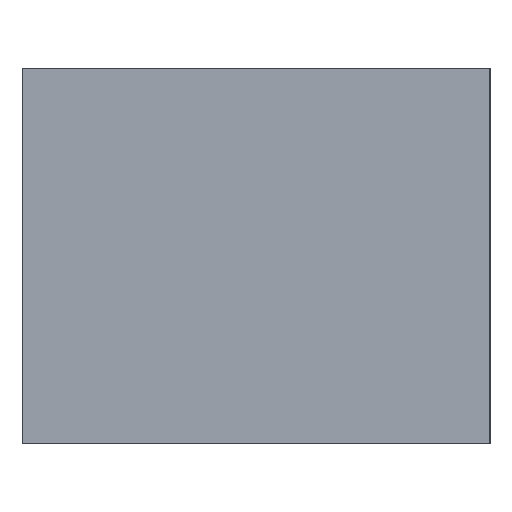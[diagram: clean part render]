
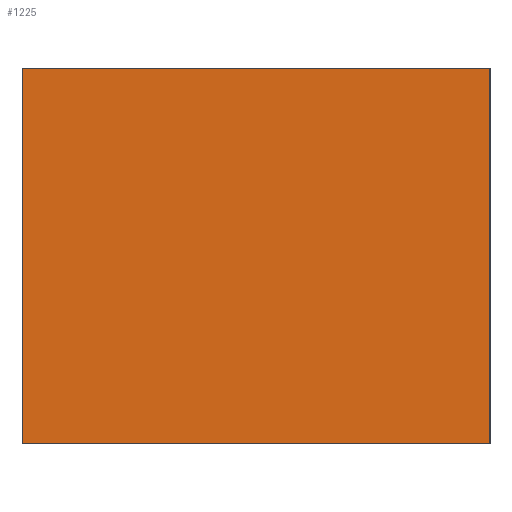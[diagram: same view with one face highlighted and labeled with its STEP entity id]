
A CAD part, left-side view. The second image highlights one B-rep face of the part: STEP entity #1225.
In plain terms, the highlighted planar face has unit normal (-1, 0, 0).
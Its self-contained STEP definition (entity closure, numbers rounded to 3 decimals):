
#27 = EDGE_CURVE ( 'NONE', #603, #1245, #990, .T. ) ;
#36 = VECTOR ( 'NONE', #442, 1000. ) ;
#49 = EDGE_CURVE ( 'NONE', #1020, #1158, #902, .T. ) ;
#129 = LINE ( 'NONE', #449, #472 ) ;
#156 = FACE_OUTER_BOUND ( 'NONE', #817, .T. ) ;
#173 = ORIENTED_EDGE ( 'NONE', *, *, #580, .F. ) ;
#277 = CARTESIAN_POINT ( 'NONE',  ( -33.5, 23.75, -19. ) ) ;
#326 = CARTESIAN_POINT ( 'NONE',  ( -33.5, 23.75, -19. ) ) ;
#341 = ORIENTED_EDGE ( 'NONE', *, *, #49, .T. ) ;
#350 = LINE ( 'NONE', #326, #36 ) ;
#382 = CARTESIAN_POINT ( 'NONE',  ( -33.5, 23.75, 19. ) ) ;
#442 = DIRECTION ( 'NONE',  ( 0., -1., 0. ) ) ;
#449 = CARTESIAN_POINT ( 'NONE',  ( -33.5, 23.75, 19. ) ) ;
#472 = VECTOR ( 'NONE', #1250, 1000. ) ;
#474 = CARTESIAN_POINT ( 'NONE',  ( -33.5, 23.75, 19. ) ) ;
#489 = EDGE_CURVE ( 'NONE', #1158, #1245, #350, .T. ) ;
#549 = ORIENTED_EDGE ( 'NONE', *, *, #489, .T. ) ;
#577 = DIRECTION ( 'NONE',  ( 0., 0., -1. ) ) ;
#580 = EDGE_CURVE ( 'NONE', #1020, #603, #129, .T. ) ;
#603 = VERTEX_POINT ( 'NONE', #724 ) ;
#643 = CARTESIAN_POINT ( 'NONE',  ( -33.5, 23.75, 19. ) ) ;
#724 = CARTESIAN_POINT ( 'NONE',  ( -33.5, -23.75, 19. ) ) ;
#791 = VECTOR ( 'NONE', #577, 1000. ) ;
#817 = EDGE_LOOP ( 'NONE', ( #549, #1136, #173, #341 ) ) ;
#875 = DIRECTION ( 'NONE',  ( 0., 0., -1. ) ) ;
#885 = CARTESIAN_POINT ( 'NONE',  ( -33.5, -23.75, 19. ) ) ;
#902 = LINE ( 'NONE', #382, #1272 ) ;
#909 = DIRECTION ( 'NONE',  ( 0., 0., -1. ) ) ;
#990 = LINE ( 'NONE', #885, #791 ) ;
#1020 = VERTEX_POINT ( 'NONE', #643 ) ;
#1087 = CARTESIAN_POINT ( 'NONE',  ( -33.5, -23.75, -19. ) ) ;
#1102 = DIRECTION ( 'NONE',  ( 1., 0., 0. ) ) ;
#1136 = ORIENTED_EDGE ( 'NONE', *, *, #27, .F. ) ;
#1158 = VERTEX_POINT ( 'NONE', #277 ) ;
#1201 = PLANE ( 'NONE',  #1249 ) ;
#1225 = ADVANCED_FACE ( 'NONE', ( #156 ), #1201, .F. ) ;
#1245 = VERTEX_POINT ( 'NONE', #1087 ) ;
#1249 = AXIS2_PLACEMENT_3D ( 'NONE', #474, #1102, #875 ) ;
#1250 = DIRECTION ( 'NONE',  ( 0., -1., 0. ) ) ;
#1272 = VECTOR ( 'NONE', #909, 1000. ) ;
